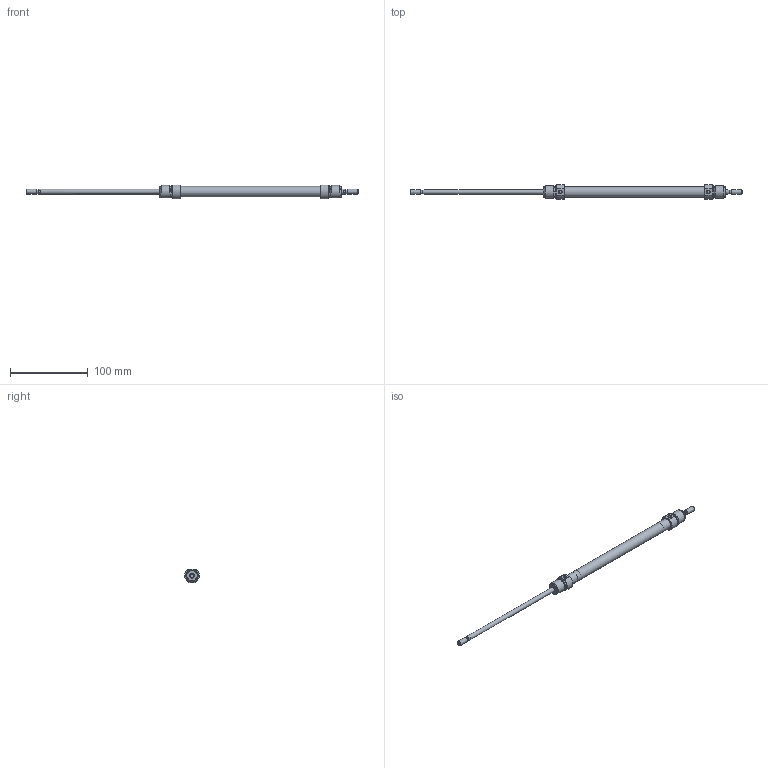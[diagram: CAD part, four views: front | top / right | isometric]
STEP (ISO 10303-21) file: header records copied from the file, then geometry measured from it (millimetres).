
FILE_DESCRIPTION( ( 'STEP AP203' ), '1' );
FILE_NAME( '//expscmdclustefs.cadenas.external/client_exchange/iodir/jobs/output/wkb68359199_no0/STEP/M101-012-0150--__0__2_03.stp', ' ', ( ' ' ), ( ' ' ), 'PSStep 15.0.47', 'PARTsolutions', ' ' );
FILE_SCHEMA( ( 'CONFIG_CONTROL_DESIGN' ) );
Length unit declared in the file: millimetre
Products named in the file (3): M101-012-0150-- [0]; HI_M101-012-0150---[0]-z; HI_M101-012-0150---[0]-k
Assembly tree (2 placements, depth 2):
  M101-012-0150-- [0]
    HI_M101-012-0150---[0]-z
    HI_M101-012-0150---[0]-k
Bounding box: 426 x 18.73 x 17.86 mm (x, y, z)
Volume: 29492.1 mm3; surface area: 27157 mm2
Topology: 2 solids, 2 shells, 65 faces, 129 edges, 80 vertices
Faces by surface type: plane 26, cylinder 23, cone 14, torus 2
Full cylindrical faces by diameter (mm): 4.134 x2, 4.773 x2, 6 x6, 12 x2, 13.3 x1, 14.16 x4, 16 x4
Entity records: 1670 total; most frequent: CARTESIAN_POINT 324, DIRECTION 280, ORIENTED_EDGE 184, AXIS2_PLACEMENT_3D 128, EDGE_LOOP 116, EDGE_CURVE 92, FACE_OUTER_BOUND 88, VERTEX_POINT 76
